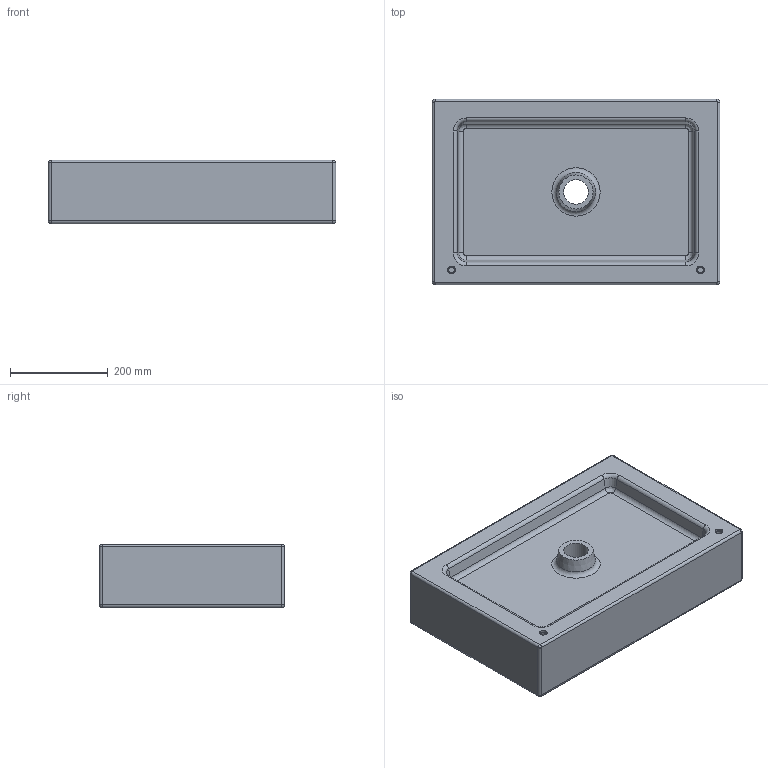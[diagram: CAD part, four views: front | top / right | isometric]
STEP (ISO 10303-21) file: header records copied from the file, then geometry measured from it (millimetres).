
FILE_DESCRIPTION( ( 'Unknown' ), '1' );
FILE_NAME( 'C:/Documents and Settings/s.pallini/Desktop/Scarabeo/Teorema 60.stp', 'Unknown', ( 'Unknown' ), ( 'Unknown' ), 'PSStep 11.0', 'Unknown', ' ' );
FILE_SCHEMA( ( 'AUTOMOTIVE_DESIGN { 1 0 10303 214 1 1 1 1 }' ) );
Length unit declared in the file: millimetre
Products named in the file (1): 1
Bounding box: 590 x 380 x 130 mm (x, y, z)
Volume: 10610381 mm3; surface area: 827400.6 mm2
Topology: 1 solids, 1 shells, 89 faces, 193 edges, 105 vertices
Faces by surface type: cylinder 37, plane 21, bspline 12, sphere 8, torus 6, cone 5
Full cylindrical faces by diameter (mm): 12 x2, 16 x2, 50 x1
Entity records: 3482 total; most frequent: CARTESIAN_POINT 890, DIRECTION 432, ORIENTED_EDGE 348, AXIS2_PLACEMENT_3D 180, EDGE_CURVE 174, EDGE_LOOP 106, VERTEX_POINT 102, FACE_OUTER_BOUND 96
